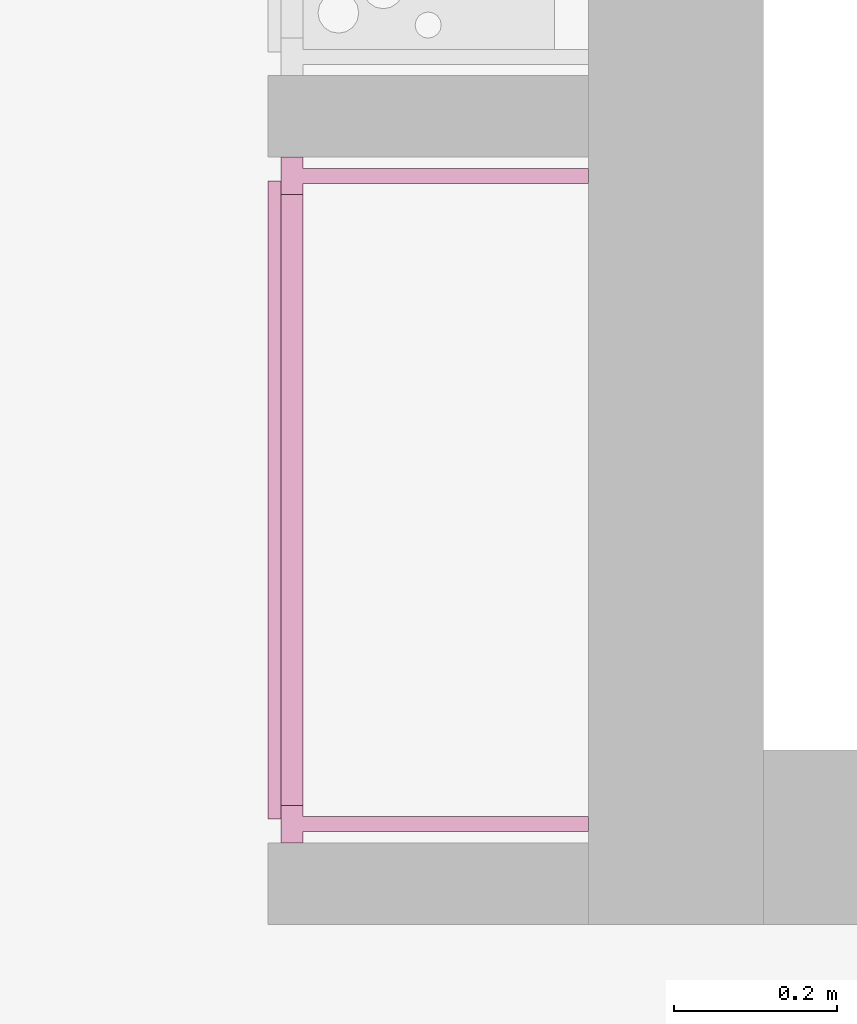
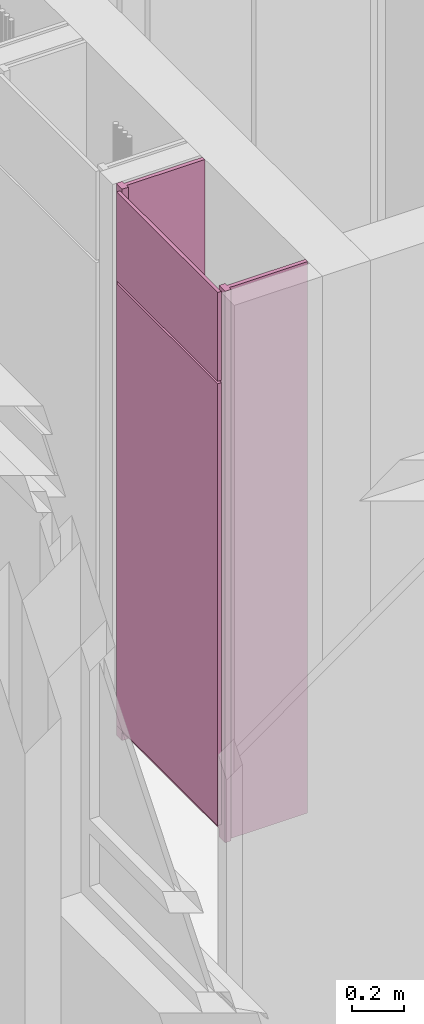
# One storey, part 19 of 22: 1 furnishing.
"""IFC2X3 building model written with IfcOpenShell, lengths in millimetres."""

from ifc_helpers import new_model, entity, si_unit, converted_unit, derived_unit, money_unit, direction, frame, origin_with_axes, place, context, subcontext, project, spatial, faceted_brep, source, transform, mapped, material, type_object, type_shapes, element, save


model = new_model("IFC2X3")

# Units and contexts
model_context = context("Model", 3, precision=0.01, world=origin_with_axes(), true_north=direction((0.0, 1.0)))
body_context = subcontext(model_context, "Body", "Model", "MODEL_VIEW")
ifc_project = project(units=[si_unit("LENGTHUNIT", "METRE", prefix="MILLI"), si_unit("AREAUNIT", "SQUARE_METRE"), si_unit("VOLUMEUNIT", "CUBIC_METRE"), converted_unit("PLANEANGLEUNIT", "DEGREE", entity("IfcPlaneAngleMeasure", 0.0174532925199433), si_unit("PLANEANGLEUNIT", "RADIAN"), dimensions=[0, 0, 0, 0, 0, 0, 0]), money_unit("EUR"), converted_unit("TIMEUNIT", "Year", entity("IfcTimeMeasure", 31557600.0), si_unit("TIMEUNIT", "SECOND"), dimensions=[0, 0, 1, 0, 0, 0, 0]), si_unit("MASSUNIT", "GRAM", prefix="KILO"), si_unit("THERMODYNAMICTEMPERATUREUNIT", "DEGREE_CELSIUS"), si_unit("LUMINOUSINTENSITYUNIT", "LUMEN"), si_unit("ENERGYUNIT", "JOULE", prefix="MEGA"), derived_unit("THERMALCONDUCTANCEUNIT", [(si_unit("POWERUNIT", "WATT"), 1), (si_unit("LENGTHUNIT", "METRE"), -1), (si_unit("THERMODYNAMICTEMPERATUREUNIT", "KELVIN"), -1)]), derived_unit("SPECIFICHEATCAPACITYUNIT", [(si_unit("ENERGYUNIT", "JOULE"), 1), (si_unit("MASSUNIT", "GRAM", prefix="KILO"), -1), (si_unit("THERMODYNAMICTEMPERATUREUNIT", "KELVIN"), -1)]), derived_unit("MASSDENSITYUNIT", [(si_unit("MASSUNIT", "GRAM", prefix="KILO"), 1), (si_unit("VOLUMEUNIT", "CUBIC_METRE"), -1)])], contexts=[model_context])

# Site, building, storey
site_placement = place(None, origin_with_axes())
site = spatial("IfcSite", under=ifc_project, at=site_placement, Name="Site", CompositionType="ELEMENT")
building_placement = place(site_placement, origin_with_axes())
building = spatial("IfcBuilding", under=site, at=building_placement, Name="Naam gebouw", CompositionType="ELEMENT")
storey_placement = place(building_placement, frame((0.0, 0.0, 8690.0), z_axis=(0.0, 0.0, 1.0), x_axis=(1.0, 0.0, 0.0)))
storey = spatial("IfcBuildingStorey", under=building, at=storey_placement, Name="2e verdieping V", CompositionType="ELEMENT", Elevation=8690.0)

# Furnishing
ifc_material = material(Name="houtfineer")
furniture_type = type_object("IfcFurnitureType", Name="NLRS_60_CASE_werkkast_algemeen_WID:meterkast_algemeen_lxbxh 840x350x2600", AssemblyPlace="NOTDEFINED")
shared_shape = source(origin_with_axes(), body_context, "Body", "Brep", [
    faceted_brep([(-391.2961033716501, 0.0, 0.0), (-391.2961033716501, -359.0000000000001, 0.0), (-391.2961033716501, -359.0000000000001, 2600.0), (-391.2961033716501, 0.0, 2600.0), (-373.29967356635, 0.0, 0.0), (-373.29967356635, -359.0000000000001, 0.0), (-373.29967356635, -359.0000000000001, 2600.0), (-373.29967356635, 0.0, 2600.0)], [[[0, 1, 2, 3]], [[0, 4, 5, 1]], [[1, 5, 6, 2]], [[3, 2, 6, 7]], [[4, 0, 3, 7]], [[5, 4, 7, 6]]]),
    faceted_brep([(-376.29967356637, -393.0000000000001, 2164.0), (405.70032643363, -393.0000000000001, 2164.0), (405.70032643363, -393.0000000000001, 2583.0), (-376.29967356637, -393.0000000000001, 2583.0), (-376.29967356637, -377.0000000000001, 2164.0), (405.70032643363, -377.0000000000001, 2164.0), (405.70032643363, -377.0000000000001, 2583.0), (-376.29967356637, -377.0000000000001, 2583.0)], [[[0, 1, 2, 3]], [[0, 4, 5, 1]], [[1, 5, 6, 2]], [[3, 2, 6, 7]], [[4, 0, 3, 7]], [[5, 4, 7, 6]]]),
    faceted_brep([(402.70211153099, -359.0000000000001, 0.0), (420.69854133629, -359.0000000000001, 0.0), (420.69854133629, -359.0000000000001, 2600.0), (402.70211153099, -359.0000000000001, 2600.0), (402.70211153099, 0.0, 0.0), (420.69854133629, 0.0, 0.0), (420.69854133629, 0.0, 2600.0), (402.70211153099, 0.0, 2600.0)], [[[0, 1, 2, 3]], [[0, 4, 5, 1]], [[1, 5, 6, 2]], [[3, 2, 6, 7]], [[4, 0, 3, 7]], [[5, 4, 7, 6]]]),
    faceted_brep([(434.70032643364, -377.0000000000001, 0.0), (434.70032643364, -350.0000000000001, 0.0), (434.70032643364, -350.0000000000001, 2600.0), (434.70032643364, -377.0000000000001, 2600.0), (388.70032643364, -377.0000000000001, 0.0), (388.70032643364, -350.0000000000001, 0.0), (402.70211153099, -350.0000000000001, 0.0), (402.70211153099, -359.0000000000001, 0.0), (420.69854133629, -359.0000000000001, 0.0), (420.69854133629, -350.0000000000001, 0.0), (420.69854133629, -350.0000000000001, 2600.0), (420.69854133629, -359.0000000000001, 2600.0), (402.70211153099, -359.0000000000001, 2600.0), (402.70211153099, -350.0000000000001, 2600.0), (388.70032643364, -350.0000000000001, 2600.0), (388.70032643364, -377.0000000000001, 2600.0)], [[[0, 1, 2, 3]], [[0, 4, 5, 6, 7, 8, 9, 1]], [[1, 9, 10, 2]], [[3, 2, 10, 11, 12, 13, 14, 15]], [[4, 0, 3, 15]], [[5, 4, 15, 14]], [[6, 5, 14, 13]], [[7, 6, 13, 12]], [[8, 7, 12, 11]], [[9, 8, 11, 10]]]),
    faceted_brep([(-359.29967356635, -377.0000000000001, 0.0), (-359.29967356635, -350.0000000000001, 0.0), (-359.29967356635, -350.0000000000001, 2600.0), (-359.29967356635, -377.0000000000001, 2600.0), (-405.2996735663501, -377.0000000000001, 0.0), (-405.2996735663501, -350.0000000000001, 0.0), (-391.297888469, -350.0000000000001, 0.0), (-391.297888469, -359.0000000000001, 0.0), (-373.3014586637, -359.0000000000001, 0.0), (-373.3014586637, -350.0000000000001, 0.0), (-373.3014586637, -350.0000000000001, 2600.0), (-373.3014586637, -359.0000000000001, 2600.0), (-391.297888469, -359.0000000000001, 2600.0), (-391.297888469, -350.0000000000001, 2600.0), (-405.2996735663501, -350.0000000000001, 2600.0), (-405.2996735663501, -377.0000000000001, 2600.0)], [[[0, 1, 2, 3]], [[0, 4, 5, 6, 7, 8, 9, 1]], [[1, 9, 10, 2]], [[3, 2, 10, 11, 12, 13, 14, 15]], [[4, 0, 3, 15]], [[5, 4, 15, 14]], [[6, 5, 14, 13]], [[7, 6, 13, 12]], [[8, 7, 12, 11]], [[9, 8, 11, 10]]]),
    faceted_brep([(-376.2996735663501, -393.0000000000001, 69.0), (405.7003264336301, -393.0000000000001, 69.0), (405.7003264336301, -393.0000000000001, 2152.0), (-376.2996735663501, -393.0000000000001, 2152.0), (-376.2996735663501, -377.0000000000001, 69.0), (405.7003264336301, -377.0000000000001, 69.0), (405.7003264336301, -377.0000000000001, 2152.0), (-376.2996735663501, -377.0000000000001, 2152.0)], [[[0, 1, 2, 3]], [[0, 4, 5, 1]], [[1, 5, 6, 2]], [[3, 2, 6, 7]], [[4, 0, 3, 7]], [[5, 4, 7, 6]]]),
    faceted_brep([(-359.29967356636, -377.0000000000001, 2135.0), (-359.29967356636, -350.0000000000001, 2135.0), (388.7003264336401, -350.0000000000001, 2135.0), (388.7003264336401, -377.0000000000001, 2135.0), (-359.29967356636, -377.0000000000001, 2181.0), (-359.29967356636, -350.0000000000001, 2181.0), (-359.29967356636, -350.0000000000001, 2166.99821490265), (-359.29967356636, -359.0000000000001, 2166.99821490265), (-359.29967356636, -359.0000000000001, 2149.00178509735), (-359.29967356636, -350.0000000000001, 2149.00178509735), (388.7003264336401, -350.0000000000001, 2149.00178509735), (388.7003264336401, -359.0000000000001, 2149.00178509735), (388.7003264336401, -359.0000000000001, 2166.99821490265), (388.7003264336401, -350.0000000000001, 2166.99821490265), (388.7003264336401, -350.0000000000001, 2181.0), (388.7003264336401, -377.0000000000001, 2181.0)], [[[0, 1, 2, 3]], [[0, 4, 5, 6, 7, 8, 9, 1]], [[1, 9, 10, 2]], [[3, 2, 10, 11, 12, 13, 14, 15]], [[4, 0, 3, 15]], [[5, 4, 15, 14]], [[6, 5, 14, 13]], [[7, 6, 13, 12]], [[8, 7, 12, 11]], [[9, 8, 11, 10]]]),
    faceted_brep([(-359.29967356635, -377.0000000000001, 40.0), (-359.29967356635, -350.0000000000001, 40.0), (388.7003264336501, -350.0000000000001, 40.0), (388.7003264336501, -377.0000000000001, 40.0), (-359.29967356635, -377.0000000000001, 86.0), (-359.29967356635, -350.0000000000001, 86.0), (-359.29967356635, -350.0000000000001, 71.99821490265), (-359.29967356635, -359.0000000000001, 71.99821490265), (-359.29967356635, -359.0000000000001, 54.00178509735), (-359.29967356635, -350.0000000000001, 54.00178509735), (388.7003264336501, -350.0000000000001, 54.00178509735), (388.7003264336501, -359.0000000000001, 54.00178509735), (388.7003264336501, -359.0000000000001, 71.99821490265), (388.7003264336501, -350.0000000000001, 71.99821490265), (388.7003264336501, -350.0000000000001, 86.0), (388.7003264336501, -377.0000000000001, 86.0)], [[[0, 1, 2, 3]], [[0, 4, 5, 6, 7, 8, 9, 1]], [[1, 9, 10, 2]], [[3, 2, 10, 11, 12, 13, 14, 15]], [[4, 0, 3, 15]], [[5, 4, 15, 14]], [[6, 5, 14, 13]], [[7, 6, 13, 12]], [[8, 7, 12, 11]], [[9, 8, 11, 10]]]),
])
type_shapes(furniture_type, [shared_shape])
furnishing_placement = place(storey_placement, frame((31684.00000003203, 34680.61275273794, 0.0), z_axis=(0.0, 0.0, 1.0), x_axis=(0.0, -1.0, 0.0)))
element("IfcFurnishingElement", 1, at=furnishing_placement, inside=storey, type_object=furniture_type, material=ifc_material, Name="NLRS_60_CASE_werkkast_algemeen_WID:meterkast_algemeen_lxbxh 840x350x2600", context=body_context, shape_type="MappedRepresentation", body=[
    mapped(shared_shape, transform((0.0, 0.0, 0.0))),
])

save(model, "model.ifc")
